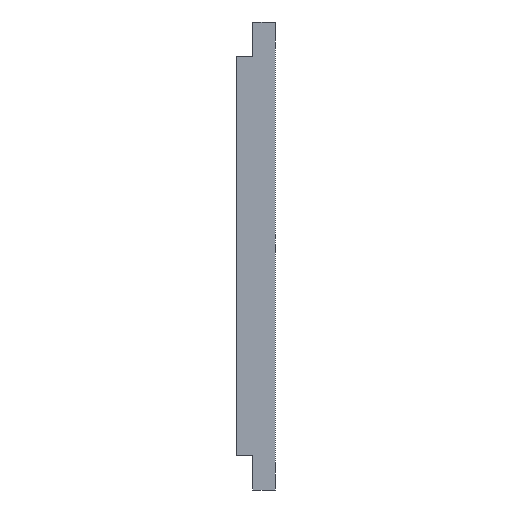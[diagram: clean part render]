
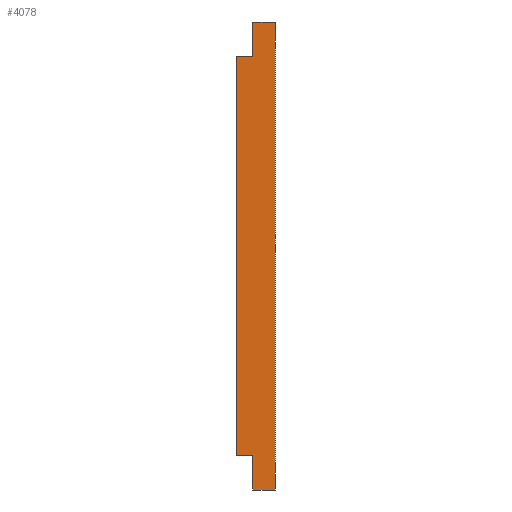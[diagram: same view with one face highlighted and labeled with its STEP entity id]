
A CAD part, left-side view. The second image highlights one B-rep face of the part: STEP entity #4078.
In plain terms, the highlighted planar face has unit normal (-1, 0, 0).
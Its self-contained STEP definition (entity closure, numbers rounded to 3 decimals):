
#387 = CARTESIAN_POINT ( 'NONE',  ( -200., 6., -62.5 ) ) ;
#410 = CARTESIAN_POINT ( 'NONE',  ( -200., 6., 62.5 ) ) ;
#429 = ORIENTED_EDGE ( 'NONE', *, *, #1307, .F. ) ;
#434 = DIRECTION ( 'NONE',  ( 0., -1., 0. ) ) ;
#437 = EDGE_LOOP ( 'NONE', ( #1034, #429, #2669, #1200, #1260, #1468, #1106, #2182 ) ) ;
#446 = CARTESIAN_POINT ( 'NONE',  ( -200., 10.3, 53.2 ) ) ;
#447 = VECTOR ( 'NONE', #2450, 1000. ) ;
#464 = VERTEX_POINT ( 'NONE', #2241 ) ;
#605 = CARTESIAN_POINT ( 'NONE',  ( -200., 0., 62.5 ) ) ;
#684 = LINE ( 'NONE', #4666, #447 ) ;
#700 = DIRECTION ( 'NONE',  ( 0., 0., -1. ) ) ;
#845 = EDGE_CURVE ( 'NONE', #2722, #464, #1864, .T. ) ;
#872 = VECTOR ( 'NONE', #3452, 1000. ) ;
#1034 = ORIENTED_EDGE ( 'NONE', *, *, #4049, .T. ) ;
#1106 = ORIENTED_EDGE ( 'NONE', *, *, #845, .F. ) ;
#1149 = VERTEX_POINT ( 'NONE', #2079 ) ;
#1200 = ORIENTED_EDGE ( 'NONE', *, *, #3447, .F. ) ;
#1251 = EDGE_CURVE ( 'NONE', #2157, #2464, #3306, .T. ) ;
#1260 = ORIENTED_EDGE ( 'NONE', *, *, #3316, .F. ) ;
#1265 = LINE ( 'NONE', #2654, #1945 ) ;
#1274 = FACE_OUTER_BOUND ( 'NONE', #437, .T. ) ;
#1307 = EDGE_CURVE ( 'NONE', #2464, #4675, #3198, .T. ) ;
#1344 = CARTESIAN_POINT ( 'NONE',  ( -200., 6., 62.5 ) ) ;
#1379 = DIRECTION ( 'NONE',  ( 0., -1., 0. ) ) ;
#1461 = AXIS2_PLACEMENT_3D ( 'NONE', #2099, #4716, #700 ) ;
#1468 = ORIENTED_EDGE ( 'NONE', *, *, #1543, .T. ) ;
#1543 = EDGE_CURVE ( 'NONE', #3951, #464, #1265, .T. ) ;
#1838 = CARTESIAN_POINT ( 'NONE',  ( -200., 10.3, 53.2 ) ) ;
#1864 = LINE ( 'NONE', #1344, #3462 ) ;
#1945 = VECTOR ( 'NONE', #434, 1000. ) ;
#2079 = CARTESIAN_POINT ( 'NONE',  ( -200., 0., -62.5 ) ) ;
#2099 = CARTESIAN_POINT ( 'NONE',  ( -200., 6., 62.5 ) ) ;
#2157 = VERTEX_POINT ( 'NONE', #2361 ) ;
#2182 = ORIENTED_EDGE ( 'NONE', *, *, #3032, .T. ) ;
#2241 = CARTESIAN_POINT ( 'NONE',  ( -200., 6., -53.2 ) ) ;
#2320 = LINE ( 'NONE', #446, #872 ) ;
#2361 = CARTESIAN_POINT ( 'NONE',  ( -200., 6., 53.2 ) ) ;
#2420 = VECTOR ( 'NONE', #1379, 1000. ) ;
#2450 = DIRECTION ( 'NONE',  ( 0., 0., 1. ) ) ;
#2454 = CARTESIAN_POINT ( 'NONE',  ( -200., 6., 62.5 ) ) ;
#2464 = VERTEX_POINT ( 'NONE', #410 ) ;
#2654 = CARTESIAN_POINT ( 'NONE',  ( -200., 10.3, -53.2 ) ) ;
#2669 = ORIENTED_EDGE ( 'NONE', *, *, #1251, .F. ) ;
#2722 = VERTEX_POINT ( 'NONE', #3957 ) ;
#2854 = DIRECTION ( 'NONE',  ( 0., 0., 1. ) ) ;
#2930 = DIRECTION ( 'NONE',  ( 0., -1., 0. ) ) ;
#3032 = EDGE_CURVE ( 'NONE', #2722, #1149, #4129, .T. ) ;
#3034 = VECTOR ( 'NONE', #2930, 1000. ) ;
#3198 = LINE ( 'NONE', #4755, #2420 ) ;
#3306 = LINE ( 'NONE', #2454, #4627 ) ;
#3316 = EDGE_CURVE ( 'NONE', #3951, #4073, #4187, .T. ) ;
#3440 = VECTOR ( 'NONE', #4482, 1000. ) ;
#3447 = EDGE_CURVE ( 'NONE', #4073, #2157, #2320, .T. ) ;
#3452 = DIRECTION ( 'NONE',  ( 0., -1., 0. ) ) ;
#3457 = CARTESIAN_POINT ( 'NONE',  ( -200., 10.3, -53.2 ) ) ;
#3462 = VECTOR ( 'NONE', #3919, 1000. ) ;
#3919 = DIRECTION ( 'NONE',  ( 0., 0., 1. ) ) ;
#3951 = VERTEX_POINT ( 'NONE', #3457 ) ;
#3957 = CARTESIAN_POINT ( 'NONE',  ( -200., 6., -62.5 ) ) ;
#3998 = CARTESIAN_POINT ( 'NONE',  ( -200., 10.3, 53.2 ) ) ;
#4049 = EDGE_CURVE ( 'NONE', #1149, #4675, #684, .T. ) ;
#4073 = VERTEX_POINT ( 'NONE', #3998 ) ;
#4078 = ADVANCED_FACE ( 'NONE', ( #1274 ), #4733, .F. ) ;
#4129 = LINE ( 'NONE', #387, #3034 ) ;
#4187 = LINE ( 'NONE', #1838, #3440 ) ;
#4482 = DIRECTION ( 'NONE',  ( 0., 0., 1. ) ) ;
#4627 = VECTOR ( 'NONE', #2854, 1000. ) ;
#4666 = CARTESIAN_POINT ( 'NONE',  ( -200., 0., 62.5 ) ) ;
#4675 = VERTEX_POINT ( 'NONE', #605 ) ;
#4716 = DIRECTION ( 'NONE',  ( 1., 0., 0. ) ) ;
#4733 = PLANE ( 'NONE',  #1461 ) ;
#4755 = CARTESIAN_POINT ( 'NONE',  ( -200., 6., 62.5 ) ) ;
